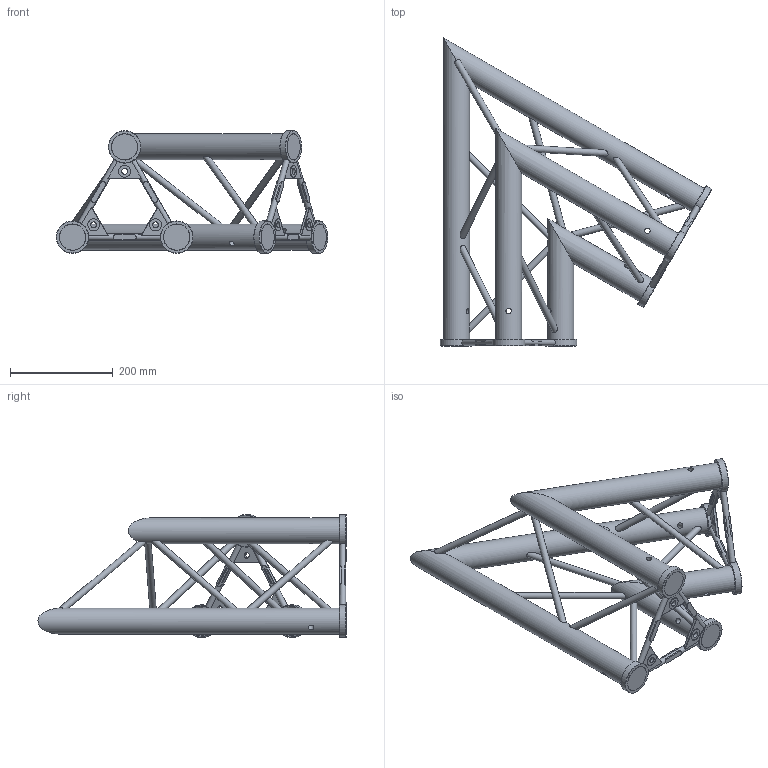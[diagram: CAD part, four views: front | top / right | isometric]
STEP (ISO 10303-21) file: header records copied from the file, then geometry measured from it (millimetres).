
FILE_DESCRIPTION(/* description */ (''),/* implementation_level */ '2;1');
FILE_NAME(/* name */ 'C:\Users\stephan\Desktop\A03\Corners\112030015.stp',/* time_stamp */ '2016-02-12T14:20:40+01:00',/* author */ ('Stephan'),/* organization */ (''),/* preprocessor_version */ 'ST-DEVELOPER v15.6',/* originating_system */ 'Autodesk Inventor 2015',/* authorisation */ '');
FILE_SCHEMA (('AUTOMOTIVE_DESIGN { 1 0 10303 214 3 1 1 }'));
Products named in the file (1): 160025868
Bounding box: 528.74 x 599.98 x 239.1 mm (x, y, z)
Volume: 5114216.5 mm3; surface area: 562741.1 mm2
Topology: 3 solids, 3 shells, 1948 faces, 5249 edges, 3495 vertices
Faces by surface type: plane 955, bspline 856, cylinder 113, cone 12, torus 12
Full cylindrical faces by diameter (mm): 10.5 x6, 11.5 x12, 12.7 x11, 23.5 x6, 50.8 x6, 51.3 x6, 63.3 x6
Entity records: 70215 total; most frequent: CARTESIAN_POINT 25829, ORIENTED_EDGE 10238, DIRECTION 5630, EDGE_CURVE 5119, VERTEX_POINT 3442, LINE 3094, VECTOR 3094, EDGE_LOOP 2271
